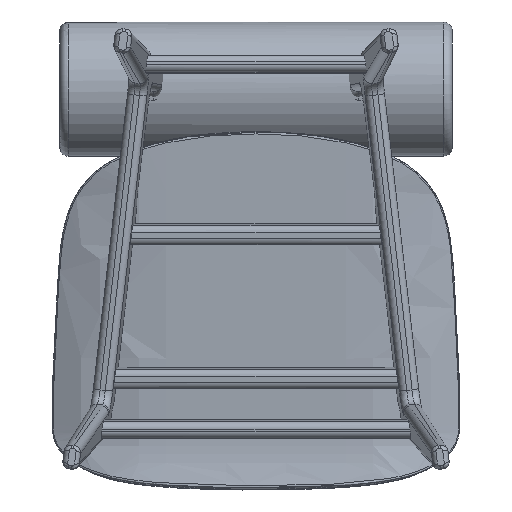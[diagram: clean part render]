
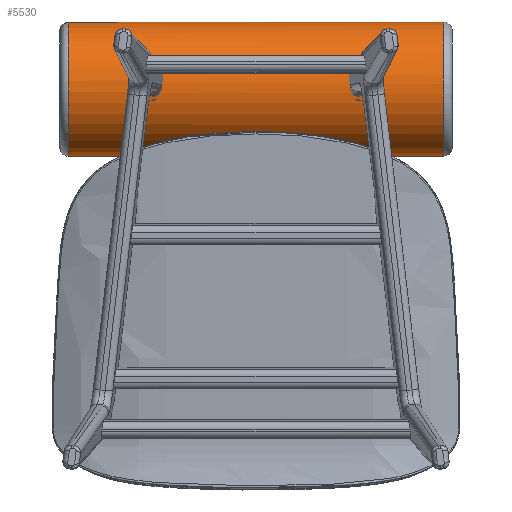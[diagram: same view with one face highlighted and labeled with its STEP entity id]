
A CAD part, front view. The second image highlights one B-rep face of the part: STEP entity #5530.
In plain terms, the highlighted cylindrical face has radius 75.5 mm (diameter 151 mm), a full revolution.
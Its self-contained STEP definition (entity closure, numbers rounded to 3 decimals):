
#199=CIRCLE('',#6001,75.5);
#200=CIRCLE('',#6002,75.5);
#201=CIRCLE('',#6004,75.5);
#202=CIRCLE('',#6005,75.5);
#298=CYLINDRICAL_SURFACE('',#6003,75.5);
#561=FACE_OUTER_BOUND('',#799,.T.);
#799=EDGE_LOOP('',(#4469,#4470,#4471,#4472,#4473,#4474));
#1558=LINE('',#41653,#1749);
#1749=VECTOR('',#6984,75.5);
#2145=VERTEX_POINT('',#41646);
#2146=VERTEX_POINT('',#41648);
#2147=VERTEX_POINT('',#41652);
#2148=VERTEX_POINT('',#41654);
#2999=EDGE_CURVE('',#2145,#2146,#199,.T.);
#3000=EDGE_CURVE('',#2146,#2145,#200,.T.);
#3001=EDGE_CURVE('',#2146,#2147,#1558,.T.);
#3002=EDGE_CURVE('',#2148,#2147,#201,.T.);
#3003=EDGE_CURVE('',#2147,#2148,#202,.T.);
#4469=ORIENTED_EDGE('',*,*,#3000,.F.);
#4470=ORIENTED_EDGE('',*,*,#3001,.T.);
#4471=ORIENTED_EDGE('',*,*,#3002,.F.);
#4472=ORIENTED_EDGE('',*,*,#3003,.F.);
#4473=ORIENTED_EDGE('',*,*,#3001,.F.);
#4474=ORIENTED_EDGE('',*,*,#2999,.F.);
#5530=ADVANCED_FACE('',(#561),#298,.T.);
#6001=AXIS2_PLACEMENT_3D('',#41649,#6978,#6979);
#6002=AXIS2_PLACEMENT_3D('',#41650,#6980,#6981);
#6003=AXIS2_PLACEMENT_3D('',#41651,#6982,#6983);
#6004=AXIS2_PLACEMENT_3D('',#41655,#6985,#6986);
#6005=AXIS2_PLACEMENT_3D('',#41656,#6987,#6988);
#6978=DIRECTION('center_axis',(-1.,0.,0.));
#6979=DIRECTION('ref_axis',(0.,-0.977,-0.214));
#6980=DIRECTION('center_axis',(-1.,0.,0.));
#6981=DIRECTION('ref_axis',(0.,-0.977,-0.214));
#6982=DIRECTION('center_axis',(-1.,0.,0.));
#6983=DIRECTION('ref_axis',(0.,0.977,0.214));
#6984=DIRECTION('',(1.,0.,0.));
#6985=DIRECTION('center_axis',(1.,0.,0.));
#6986=DIRECTION('ref_axis',(0.,-0.977,-0.214));
#6987=DIRECTION('center_axis',(1.,0.,0.));
#6988=DIRECTION('ref_axis',(0.,-0.977,-0.214));
#41646=CARTESIAN_POINT('',(-211.,67.127,232.942));
#41648=CARTESIAN_POINT('',(-211.,-80.378,232.942));
#41649=CARTESIAN_POINT('Origin',(-211.,-6.625,249.092));
#41650=CARTESIAN_POINT('Origin',(-211.,-6.625,249.092));
#41651=CARTESIAN_POINT('Origin',(0.,-6.625,
249.092));
#41652=CARTESIAN_POINT('',(211.,-80.378,232.942));
#41653=CARTESIAN_POINT('',(0.,-80.378,232.942));
#41654=CARTESIAN_POINT('',(211.,-80.378,265.243));
#41655=CARTESIAN_POINT('Origin',(211.,-6.625,249.092));
#41656=CARTESIAN_POINT('Origin',(211.,-6.625,249.092));
